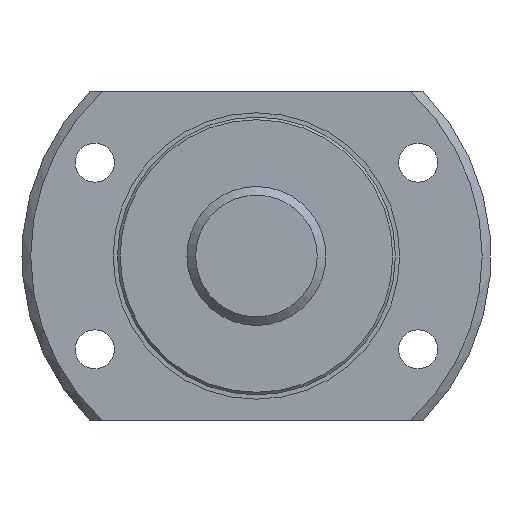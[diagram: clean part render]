
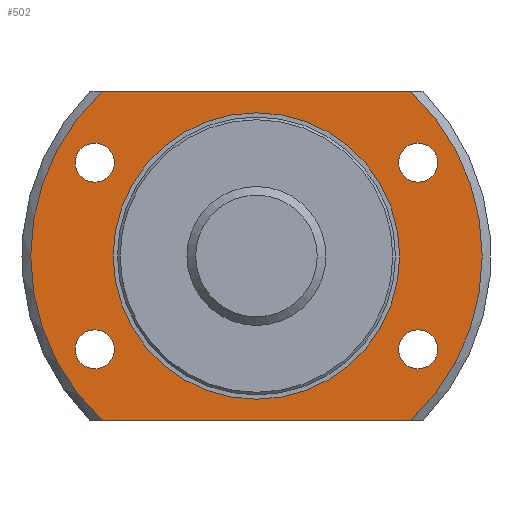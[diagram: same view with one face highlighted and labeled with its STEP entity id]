
A CAD part, left-side view. The second image highlights one B-rep face of the part: STEP entity #502.
In plain terms, the highlighted planar face has unit normal (-1, 0, 0).
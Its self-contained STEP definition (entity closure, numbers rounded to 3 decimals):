
#34=LINE('',#918,#42);
#35=LINE('',#919,#43);
#42=VECTOR('',#732,1000.);
#43=VECTOR('',#733,1000.);
#145=ORIENTED_EDGE('',*,*,#232,.T.);
#146=ORIENTED_EDGE('',*,*,#233,.F.);
#147=ORIENTED_EDGE('',*,*,#205,.F.);
#148=ORIENTED_EDGE('',*,*,#234,.F.);
#149=ORIENTED_EDGE('',*,*,#230,.F.);
#150=ORIENTED_EDGE('',*,*,#235,.T.);
#151=ORIENTED_EDGE('',*,*,#236,.T.);
#152=ORIENTED_EDGE('',*,*,#237,.T.);
#153=ORIENTED_EDGE('',*,*,#238,.T.);
#205=EDGE_CURVE('',#259,#257,#299,.T.);
#230=EDGE_CURVE('',#278,#279,#317,.T.);
#232=EDGE_CURVE('',#280,#280,#318,.T.);
#233=EDGE_CURVE('',#257,#278,#34,.T.);
#234=EDGE_CURVE('',#279,#259,#35,.T.);
#235=EDGE_CURVE('',#281,#281,#319,.T.);
#236=EDGE_CURVE('',#282,#282,#320,.T.);
#237=EDGE_CURVE('',#283,#283,#321,.T.);
#238=EDGE_CURVE('',#284,#284,#322,.T.);
#257=VERTEX_POINT('',#833);
#259=VERTEX_POINT('',#840);
#278=VERTEX_POINT('',#908);
#279=VERTEX_POINT('',#910);
#280=VERTEX_POINT('',#917);
#281=VERTEX_POINT('',#921);
#282=VERTEX_POINT('',#923);
#283=VERTEX_POINT('',#925);
#284=VERTEX_POINT('',#927);
#299=CIRCLE('',#559,26.);
#317=CIRCLE('',#592,26.);
#318=CIRCLE('',#594,16.5);
#319=CIRCLE('',#595,2.25);
#320=CIRCLE('',#596,2.25);
#321=CIRCLE('',#597,2.25);
#322=CIRCLE('',#598,2.25);
#370=EDGE_LOOP('',(#145));
#371=EDGE_LOOP('',(#146,#147,#148,#149));
#372=EDGE_LOOP('',(#150));
#373=EDGE_LOOP('',(#151));
#374=EDGE_LOOP('',(#152));
#375=EDGE_LOOP('',(#153));
#440=FACE_BOUND('',#370,.T.);
#441=FACE_BOUND('',#371,.T.);
#442=FACE_BOUND('',#372,.T.);
#443=FACE_BOUND('',#373,.T.);
#444=FACE_BOUND('',#374,.T.);
#445=FACE_BOUND('',#375,.T.);
#475=PLANE('',#593);
#502=ADVANCED_FACE('',(#440,#441,#442,#443,#444,#445),#475,.T.);
#559=AXIS2_PLACEMENT_3D('',#841,#656,#657);
#592=AXIS2_PLACEMENT_3D('',#909,#726,#727);
#593=AXIS2_PLACEMENT_3D('',#915,#728,#729);
#594=AXIS2_PLACEMENT_3D('',#916,#730,#731);
#595=AXIS2_PLACEMENT_3D('',#920,#734,#735);
#596=AXIS2_PLACEMENT_3D('',#922,#736,#737);
#597=AXIS2_PLACEMENT_3D('',#924,#738,#739);
#598=AXIS2_PLACEMENT_3D('',#926,#740,#741);
#656=DIRECTION('',(1.,0.,0.));
#657=DIRECTION('',(0.,0.,-1.));
#726=DIRECTION('',(1.,0.,0.));
#727=DIRECTION('',(0.,0.,-1.));
#728=DIRECTION('',(-1.,0.,0.));
#729=DIRECTION('',(0.,0.,1.));
#730=DIRECTION('',(1.,0.,0.));
#731=DIRECTION('',(0.,0.,-1.));
#732=DIRECTION('',(0.,1.,0.));
#733=DIRECTION('',(0.,-1.,0.));
#734=DIRECTION('',(1.,0.,0.));
#735=DIRECTION('',(0.,0.,-1.));
#736=DIRECTION('',(1.,0.,0.));
#737=DIRECTION('',(0.,0.,-1.));
#738=DIRECTION('',(1.,0.,0.));
#739=DIRECTION('',(0.,0.,-1.));
#740=DIRECTION('',(1.,0.,0.));
#741=DIRECTION('',(0.,0.,-1.));
#833=CARTESIAN_POINT('',(5.5,-17.748,-19.));
#840=CARTESIAN_POINT('',(5.5,-17.748,19.));
#841=CARTESIAN_POINT('',(5.5,0.,0.));
#908=CARTESIAN_POINT('',(5.5,17.748,-19.));
#909=CARTESIAN_POINT('',(5.5,0.,0.));
#910=CARTESIAN_POINT('',(5.5,17.748,19.));
#915=CARTESIAN_POINT('',(5.5,26.,0.));
#916=CARTESIAN_POINT('',(5.5,0.,0.));
#917=CARTESIAN_POINT('',(5.5,0.,-16.5));
#918=CARTESIAN_POINT('',(5.5,26.,-19.));
#919=CARTESIAN_POINT('',(5.5,26.,19.));
#920=CARTESIAN_POINT('',(5.5,-18.62,10.75));
#921=CARTESIAN_POINT('',(5.5,-18.62,8.5));
#922=CARTESIAN_POINT('',(5.5,-18.62,-10.75));
#923=CARTESIAN_POINT('',(5.5,-18.62,-13.));
#924=CARTESIAN_POINT('',(5.5,18.62,-10.75));
#925=CARTESIAN_POINT('',(5.5,18.62,-13.));
#926=CARTESIAN_POINT('',(5.5,18.62,10.75));
#927=CARTESIAN_POINT('',(5.5,18.62,8.5));
